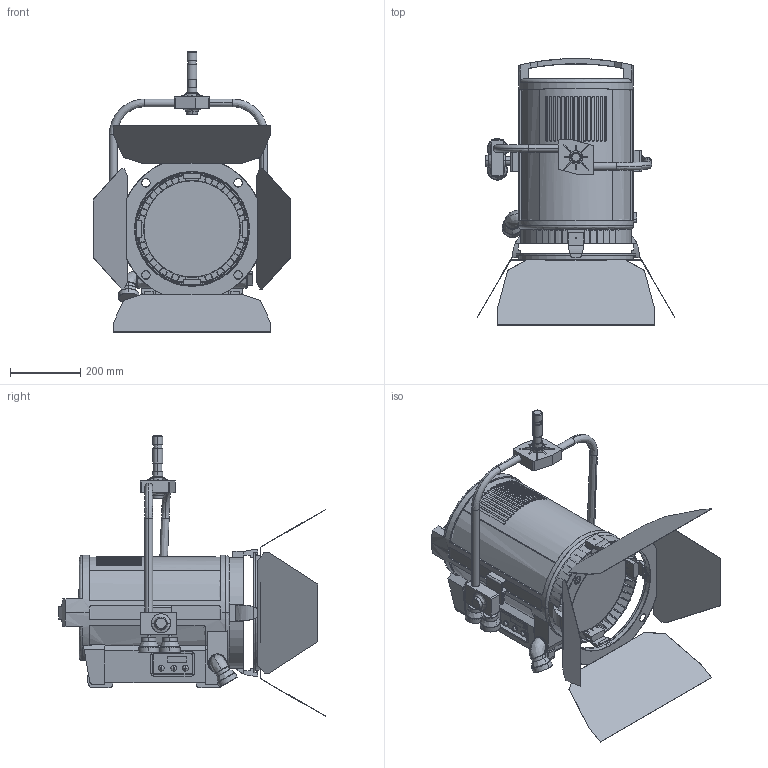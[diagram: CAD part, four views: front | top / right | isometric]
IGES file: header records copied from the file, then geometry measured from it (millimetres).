
Start section: SolidWorks IGES file using analytic representation for surfaces
Global section: file name: L:\Huttner\02_outgoing\2015-07-17 Rast\L10-PO-silber.IGS; native system: SolidWorks 2013; preprocessor: SolidWorks 2013; author: huttner; date: 150817.134247; units: millimetre
Bounding box: 565 x 761.5 x 800.62 mm (x, y, z)
Surface area: 2657196.1 mm2 (no closed solid volume)
Topology: 0 solids, 0 shells, 1082 faces, 13091 edges, 13091 vertices
Faces by surface type: bspline 771, revolution 311
